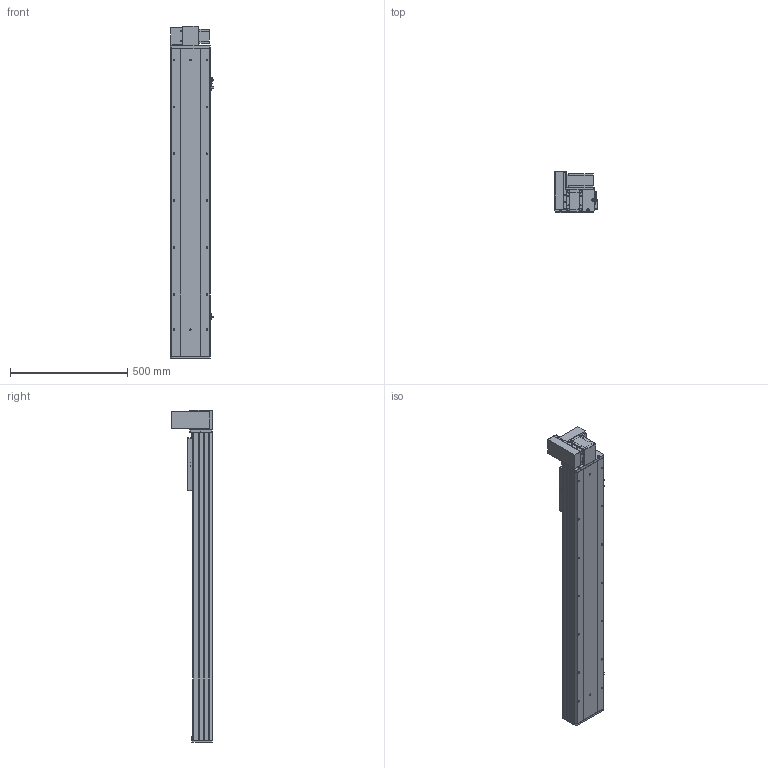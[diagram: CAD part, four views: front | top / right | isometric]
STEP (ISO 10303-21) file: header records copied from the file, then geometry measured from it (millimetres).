
FILE_DESCRIPTION (( 'STEP AP203' ), '1' );
FILE_NAME ('Y170CB-D105-S1000-UL-P400W.STEP', '2020-02-20T02:21:32', ( '微软用户' ), ( '微软中国' ), 'SwSTEP 2.0', 'SolidWorks 2017', '' );
FILE_SCHEMA (( 'CONFIG_CONTROL_DESIGN' ));
Length unit declared in the file: millimetre
Products named in the file (18): 70B喘謫眊----; 70CB-耜裔啣-; Y1埴倛裔; 70C--詩湍揤踡え-; 17B-耜蚾蟀諉啣----; 70CB--耜裔; 00B-俋欶BM--163; 70C-雄赽釱-奻-; B-源倛裔啣; Y170CB-D105-S1000-UL-P400W; 0C--雄赽釱俋欶-170; 0B-萇儂楊擘啣; 70CB-詩湍--; san松下电机400不带刹车----; Y100-135俋离換覜ん--; 70CB-掛极-; Y170CB-陔俋离換覜結え---; --70CB --喘謫眊楊擘啣-
Assembly tree (21 placements, depth 2):
  Y170CB-D105-S1000-UL-P400W
    B-源倛裔啣
    0B-萇儂楊擘啣
    san松下电机400不带刹车----
    70CB-掛极-
    --70CB --喘謫眊楊擘啣-
    70CB-耜裔啣-  x2
    70C--詩湍揤踡え-  x2
    70CB--耜裔
    70C-雄赽釱-奻-
    0C--雄赽釱俋欶-170
    70CB-詩湍--
    Y100-135俋离換覜ん--  x3
    Y170CB-陔俋离換覜結え---
    70B喘謫眊----
    Y1埴倛裔
    17B-耜蚾蟀諉啣----
    00B-俋欶BM--163
Bounding box: 183.5 x 174 x 1416 mm (x, y, z)
Volume: 6539567.6 mm3; surface area: 2343771.2 mm2
Topology: 21 solids, 21 shells, 1007 faces, 2693 edges, 1786 vertices
Faces by surface type: cylinder 521, plane 462, cone 24
Entity records: 32036 total; most frequent: CARTESIAN_POINT 5856, DIRECTION 5210, ORIENTED_EDGE 4868, EDGE_CURVE 2434, AXIS2_PLACEMENT_3D 1908, VERTEX_POINT 1616, LINE 1394, VECTOR 1394
